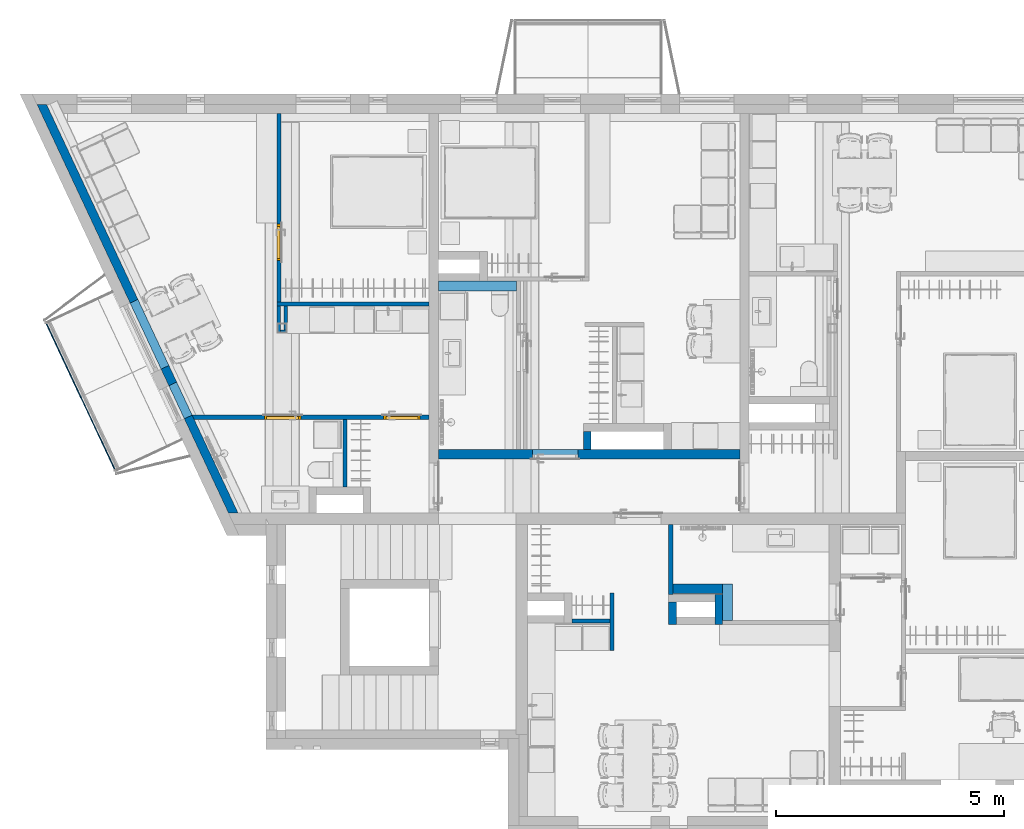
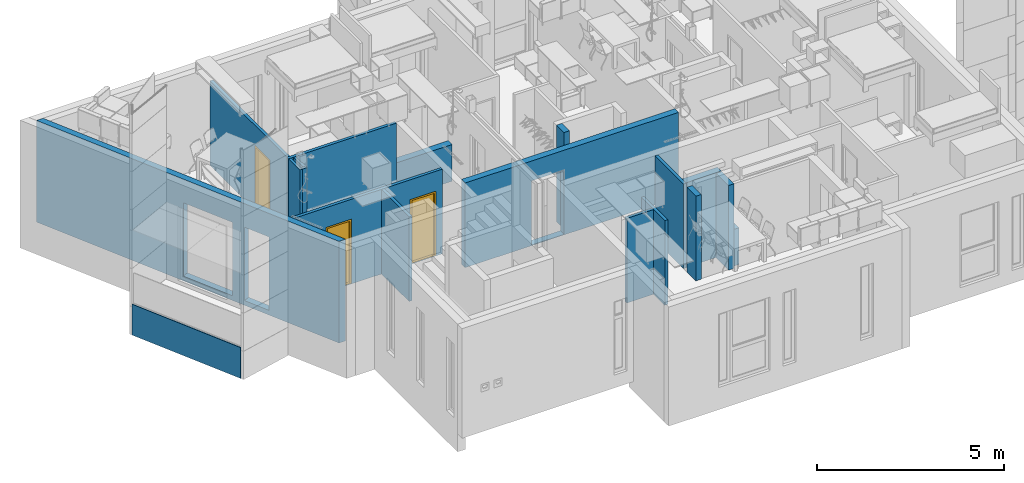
# One storey, part 4 of 125: 19 walls, 3 doors, 6 openings.
"""IFC2X3 building model written with IfcOpenShell, lengths in millimetres."""

from ifc_helpers import new_model, entity, si_unit, converted_unit, direction, frame, frame_2d, origin, place, context, subcontext, project, spatial, polyline, rectangle, outline, extrude, clip, bounded_halfspace, faceted_brep, source, transform, mapped, material, layer, layer_set, layer_usage, type_object, type_shapes, element, fill, save


model = new_model("IFC2X3")

# Units and contexts
model_context = context("Model", 3, precision=0.01, world=origin(), true_north=direction((6.123233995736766e-17, 1.0)))
plan_context = context("Plan", 3, precision=0.01, world=origin(), true_north=direction((6.123233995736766e-17, 1.0)))
body_context = subcontext(model_context, "Body", "Model", "MODEL_VIEW")
ifc_project = project(units=[si_unit("LENGTHUNIT", "METRE", prefix="MILLI"), converted_unit("PLANEANGLEUNIT", "DEGREE", entity("IfcPlaneAngleMeasure", 0.017453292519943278), si_unit("PLANEANGLEUNIT", "RADIAN"), dimensions=[0, 0, 0, 0, 0, 0, 0]), si_unit("AREAUNIT", "SQUARE_METRE")], contexts=[model_context, plan_context])

# Site, building, storey
site_placement = place(None, origin())
site = spatial("IfcSite", under=ifc_project, at=site_placement, Name="Default", CompositionType="ELEMENT")
building_placement = place(site_placement, origin())
building = spatial("IfcBuilding", under=site, at=building_placement, CompositionType="ELEMENT")
storey_placement = place(building_placement, frame((0.0, 0.0, 3125.0)))
storey = spatial("IfcBuildingStorey", under=building, at=storey_placement, Name="2K", CompositionType="ELEMENT", Elevation=3125.0)

# Wall, openings
ifc_material_1 = material(Name="_K. Väisviimistlus. Krohv. Valge")
ifc_layer_1 = layer(ifc_material_1, 5.0)
ifc_material_2 = material(Name="_K. Müüritis. Väikeplokk. Betoon-õõnesplokk")
ifc_layer_2 = layer(ifc_material_2, 190.00000000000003)
ifc_layer_3 = layer(ifc_material_1, 5.0)
ifc_layer_set_1 = layer_set([ifc_layer_1, ifc_layer_2, ifc_layer_3], Name="Basic Wall:SS-01. 190")
ifc_layer_usage_1 = layer_usage(ifc_layer_set_1, "AXIS2", "NEGATIVE", 100.00000000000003)
wall_type_1 = type_object("IfcWallType", Name="Basic Wall:SS-01. 190", PredefinedType="STANDARD", material=ifc_layer_set_1)
wall_1_placement = place(storey_placement, frame((-1131.0533723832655, 6607.55657189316, -154.99946610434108), z_axis=(0.0, 0.0, 1.0), x_axis=(-0.42443387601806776, 0.905458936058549, 0.0)))
wall_1 = element("IfcWallStandardCase", 1, at=wall_1_placement, inside=storey, type_object=wall_type_1, material=ifc_layer_usage_1, Name="Basic Wall:SS-01. 190", ObjectType="Basic Wall:SS-01. 190", context=body_context, shape_type="SweptSolid", body=[
    extrude(outline(polyline([(1309.9245855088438, -3018.333346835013), (1519.7629254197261, -3018.333346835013), (1515.0754254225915, -3008.3333468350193), (-2675.549591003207, 5931.666693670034), (-2885.3879309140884, 5931.666693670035), (1216.1745855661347, -2818.333346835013), (1309.9245855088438, -3018.333346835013)])), frame((6595.53699683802, -5.0, 0.0), z_axis=(0.0, 0.0, 1.0), x_axis=(0.42443387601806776, 0.905458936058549, 0.0)), (0.0, 0.0, 1.0), 3324.9994661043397),
])
opening_1_placement = place(storey_placement, frame((-1131.0533723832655, 6607.55657189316, -154.99946610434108), z_axis=(0.0, 0.0, 1.0), x_axis=(-0.42443387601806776, 0.905458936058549, 0.0)))
element("IfcOpeningElement", 2, at=opening_1_placement, cuts=wall_1, Name="Basic Wall:SS-01. 190:1", ObjectType="Opening", context=body_context, shape_type="SweptSolid", body=[
    extrude(rectangle(XDim=2400.000000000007, YDim=800.0000000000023, at=frame_2d((-3.296918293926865e-12, -1.1652900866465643e-12), x_axis=(1.0, 0.0))), frame((2771.5086436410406, 90.0, 1354.9994661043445), z_axis=(0.0, -1.0, 0.0), x_axis=(0.0, 0.0, 1.0)), (0.0, 0.0, 1.0), 189.99999999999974),
])
opening_2_placement = place(storey_placement, frame((-1131.0533723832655, 6607.55657189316, -154.99946610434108), z_axis=(0.0, 0.0, 1.0), x_axis=(-0.42443387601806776, 0.905458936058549, 0.0)))
element("IfcOpeningElement", 3, at=opening_2_placement, cuts=wall_1, Name="Basic Wall:SS-01. 190:2", ObjectType="Opening", context=body_context, shape_type="SweptSolid", body=[
    extrude(rectangle(XDim=2400.000000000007, YDim=1599.9999999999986, at=frame_2d((-3.296918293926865e-12, -1.1937117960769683e-12), x_axis=(1.0, 0.0))), frame((4371.508643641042, 90.0, 1354.9994661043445), z_axis=(0.0, -1.0, 0.0), x_axis=(0.0, 0.0, 1.0)), (0.0, 0.0, 1.0), 189.99999999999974),
])

# Wall, opening
ifc_layer_usage_2 = layer_usage(ifc_layer_set_1, "AXIS2", "NEGATIVE", 100.00000000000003)
wall_2_placement = place(storey_placement, frame((3344.993534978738, 7940.0, -20.00019836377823)))
wall_2 = element("IfcWallStandardCase", 4, at=wall_2_placement, inside=storey, type_object=wall_type_1, material=ifc_layer_usage_2, Name="Basic Wall:SS-01. 190", ObjectType="Basic Wall:SS-01. 190", context=body_context, shape_type="SweptSolid", body=[
    extrude(rectangle(XDim=199.99999999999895, YDim=6605.00646502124, at=frame_2d((-60.00000000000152, -421.4980604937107), x_axis=(1.0, 0.0))), frame((2881.00517201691, 60.0, 0.0), z_axis=(0.0, 0.0, 1.0), x_axis=(0.0, 1.0, 0.0)), (0.0, 0.0, 1.0), 2770.000198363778),
])
opening_3_placement = place(storey_placement, frame((3344.993534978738, 7940.0, -20.00019836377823)))
element("IfcOpeningElement", 5, at=opening_3_placement, cuts=wall_2, Name="Basic Wall:SS-01. 190:1", ObjectType="Opening", context=body_context, shape_type="SweptSolid", body=[
    extrude(rectangle(XDim=2100.000000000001, YDim=999.999999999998, at=frame_2d((3.410605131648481e-13, 1.0800249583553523e-12), x_axis=(1.0, 0.0))), frame((2559.0064650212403, -100.0, 1070.000198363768), z_axis=(0.0, 1.0, 0.0), x_axis=(0.0, 0.0, 1.0)), (0.0, 0.0, 1.0), 200.0),
])

# Wall
ifc_material_3 = material(Name="_K. Ehitusplaat. Kipsplaat. Erikõva")
ifc_layer_4 = layer(ifc_material_3, 13.000000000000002)
ifc_material_4 = material(Name="_K. Soojustus. Mineraalvill")
ifc_layer_5 = layer(ifc_material_4, 66.0)
ifc_layer_6 = layer(ifc_material_3, 13.000000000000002)
ifc_layer_set_2 = layer_set([ifc_layer_4, ifc_layer_5, ifc_layer_6], Name="Basic Wall:SS-401")
ifc_layer_usage_3 = layer_usage(ifc_layer_set_2, "AXIS2", "NEGATIVE", 46.00000000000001)
wall_type_2 = type_object("IfcWallType", Name="Basic Wall:SS-401", PredefinedType="STANDARD", material=ifc_layer_set_2)
wall_3_placement = place(storey_placement, frame((-188.01000000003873, 11233.0, -20.0)))
element("IfcWallStandardCase", 6, at=wall_3_placement, inside=storey, type_object=wall_type_2, material=ifc_layer_usage_3, Name="Basic Wall:SS-401", ObjectType="Basic Wall:SS-401", context=body_context, shape_type="SweptSolid", body=[
    extrude(rectangle(XDim=3333.0035349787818, YDim=92.00000000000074, at=frame_2d((1666.5017674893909, 3.304023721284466e-13), x_axis=(-1.0, 0.0))), origin(), (0.0, 0.0, 1.0), 2769.9999999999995),
])

# Wall, openings, doors
ifc_layer_usage_4 = layer_usage(ifc_layer_set_2, "AXIS2", "NEGATIVE", 46.00000000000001)
wall_4_placement = place(storey_placement, frame((-2047.3824971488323, 8752.0, -20.0)))
wall_4 = element("IfcWallStandardCase", 7, at=wall_4_placement, inside=storey, type_object=wall_type_2, material=ifc_layer_usage_4, Name="Basic Wall:SS-401", ObjectType="Basic Wall:SS-401", context=body_context, shape_type="SweptSolid", body=[
    extrude(outline(polyline([(5192.376032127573, -46.0), (5192.376032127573, 46.0), (0.0, 46.0), (43.12499997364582, -46.0), (3300.3760321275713, -46.0), (3392.3760321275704, -46.0), (5192.376032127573, -46.0)])), origin(), (0.0, 0.0, 1.0), 2769.9999999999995),
])
opening_4_placement = place(wall_4_placement, frame((2047.3824971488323, -8752.0, 20.0)))
opening_4 = element("IfcOpeningElement", 8, at=opening_4_placement, cuts=wall_4, Name="Basic Wall:SS-401", ObjectType="Opening", context=body_context, shape_type="Brep", body=[
    faceted_brep([(334.9935349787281, 7706.0, 2100.0), (-465.0064650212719, 7706.0, 2100.0), (-465.0064650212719, 7706.0, 0.0), (334.99353497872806, 7706.0, 0.0), (334.99353497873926, 9798.0, 0.0), (334.99353497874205, 9798.0, 2100.0), (-465.0064650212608, 9798.0, 0.0), (-465.0064650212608, 9798.0, 2100.0)], [[[0, 1, 2, 3]], [[3, 4, 5, 0]], [[2, 6, 4, 3]], [[1, 7, 6, 2]], [[5, 7, 1, 0]], [[7, 5, 4, 6]]]),
])
opening_5_placement = place(wall_4_placement, frame((2047.3824971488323, -8752.0, 20.0)))
opening_5 = element("IfcOpeningElement", 9, at=opening_5_placement, cuts=wall_4, Name="Basic Wall:SS-401", ObjectType="Opening", context=body_context, shape_type="Brep", body=[
    faceted_brep([(2944.9935349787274, 7706.0, 2100.0), (2144.9935349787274, 7706.0, 2100.0), (2144.9935349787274, 7706.0, 0.0), (2944.9935349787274, 7706.0, 0.0), (2944.9935349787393, 9798.0, 0.0), (2944.993534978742, 9798.0, 2100.0), (2144.9935349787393, 9798.0, 0.0), (2144.9935349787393, 9798.0, 2100.0)], [[[0, 1, 2, 3]], [[3, 4, 5, 0]], [[2, 6, 4, 3]], [[1, 7, 6, 2]], [[5, 7, 1, 0]], [[7, 5, 4, 6]]]),
])
ifc_material_5 = material(Name="_K. Puit. Peitsitud ja lakitud")
door_style_1 = type_object("IfcDoorStyle", Name="HR_Generic_Hinged_Single:Default. Manteluks lävepakuga. 800 x 2100 mm. Left", ConstructionType="NOTDEFINED", OperationType="NOTDEFINED", ParameterTakesPrecedence=False, Sizeable=False, material=ifc_material_5)
shared_shape_1 = source(origin(), body_context, "Body", "Brep", [
    faceted_brep([(765.0, -1000.0, 20.0), (35.0, -1000.0, 20.0), (35.0, -1030.0, 20.0), (50.0, -1030.0, 20.0), (50.0, -1092.0, 20.0), (750.0, -1092.0, 20.0), (750.0, -1030.0, 20.0), (765.0, -1030.0, 20.0), (35.0, -1000.0, 0.0), (765.0, -1000.0, 0.0), (765.0, -1030.0, 0.0), (750.0, -1030.0, 0.0), (750.0, -1092.0, 0.0), (50.0, -1092.0, 0.0), (50.0, -1030.0, 0.0), (35.0, -1030.0, 0.0)], [[[0, 1, 2, 3, 4, 5, 6, 7]], [[8, 9, 10, 11, 12, 13, 14, 15]], [[1, 0, 9, 8]], [[5, 4, 13, 12]], [[2, 1, 8, 15]], [[0, 7, 10, 9]], [[3, 14, 13, 4]], [[14, 3, 2, 15]], [[6, 11, 10, 7]], [[11, 6, 5, 12]]]),
    faceted_brep([(37.0, -1030.0, 2060.0), (37.0, -1030.0, 25.0), (763.0, -1030.0, 25.0), (763.0, -1030.0, 2060.0), (27.0, -990.0, 25.0), (27.0, -990.0, 2070.0), (773.0, -990.0, 2070.0), (773.0, -990.0, 25.0), (37.0, -1000.0, 2060.0), (37.0, -1000.0, 25.0), (27.0, -1000.0, 25.0), (773.0, -1000.0, 25.0), (763.0, -1000.0, 25.0), (763.0, -1000.0, 2060.0), (27.0, -1000.0, 2070.0), (773.0, -1000.0, 2070.0)], [[[0, 1, 2, 3]], [[4, 5, 6, 7]], [[1, 0, 8, 9]], [[2, 1, 9, 10, 4, 7, 11, 12]], [[3, 2, 12, 13]], [[0, 3, 13, 8]], [[14, 10, 9, 8, 13, 12, 11, 15]], [[6, 5, 14, 15]], [[7, 6, 15, 11]], [[5, 4, 10, 14]]]),
    faceted_brep([(800.0, -1092.0, 0.0), (750.0, -1092.0, 0.0), (750.0, -1030.0, 0.0), (765.0, -1030.0, 0.0), (765.0, -1000.0, 0.0), (800.0, -1000.0, 0.0), (800.0, -1092.0, 2100.0), (0.0, -1092.0, 2100.0), (0.0, -1092.0, 0.0), (50.0, -1092.0, 0.0), (50.0, -1092.0, 2050.0), (750.0, -1092.0, 2050.0), (750.0, -1030.0, 2050.0), (35.0, -1030.0, 2065.0), (765.0, -1030.0, 2065.0), (50.0, -1030.0, 2050.0), (50.0, -1030.0, 0.0), (35.0, -1030.0, 0.0), (765.0, -1000.0, 2065.0), (0.0, -1000.0, 0.0), (0.0, -1000.0, 2100.0), (800.0, -1000.0, 2100.0), (35.0, -1000.0, 2065.0), (35.0, -1000.0, 0.0)], [[[0, 1, 2, 3, 4, 5]], [[1, 0, 6, 7, 8, 9, 10, 11]], [[1, 11, 12, 2]], [[13, 14, 3, 2, 12, 15, 16, 17]], [[3, 14, 18, 4]], [[19, 20, 21, 5, 4, 18, 22, 23]], [[0, 5, 21, 6]], [[8, 19, 23, 17, 16, 9]], [[19, 8, 7, 20]], [[13, 17, 23, 22]], [[10, 9, 16, 15]], [[7, 6, 21, 20]], [[11, 10, 15, 12]], [[14, 13, 22, 18]]]),
])
type_shapes(door_style_1, [shared_shape_1])
door_1_placement = place(opening_5_placement, frame((2144.993534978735, 9798.0, 0.0)))
door_1 = element("IfcDoor", 10, at=door_1_placement, inside=storey, type_object=door_style_1, material=ifc_material_5, Name="HR_Generic_Hinged_Single:Default. Manteluks lävepakuga. 800 x 2100 mm. Left", ObjectType="HR_Generic_Hinged_Single:Default. Manteluks lävepakuga. 800 x 2100 mm. Left", OverallHeight=2130.000000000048, OverallWidth=860.0000000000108, context=body_context, shape_type="MappedRepresentation", body=[
    mapped(shared_shape_1, transform((0.0, 0.0, 0.0), scale=1.0)),
])
fill(opening_5, door_1)
door_style_2 = type_object("IfcDoorStyle", Name="HR_Generic_Hinged_Single:Default. Manteluks lävepakuga. 800 x 2100 mm. Right", ConstructionType="NOTDEFINED", OperationType="NOTDEFINED", ParameterTakesPrecedence=False, Sizeable=False, material=ifc_material_5)
shared_shape_2 = source(origin(), body_context, "Body", "Brep", [
    faceted_brep([(765.0, -1000.0, 20.0), (35.0, -1000.0, 20.0), (35.0, -1030.0, 20.0), (50.0, -1030.0, 20.0), (50.0, -1092.0, 20.0), (750.0, -1092.0, 20.0), (750.0, -1030.0, 20.0), (765.0, -1030.0, 20.0), (35.0, -1000.0, 0.0), (765.0, -1000.0, 0.0), (765.0, -1030.0, 0.0), (750.0, -1030.0, 0.0), (750.0, -1092.0, 0.0), (50.0, -1092.0, 0.0), (50.0, -1030.0, 0.0), (35.0, -1030.0, 0.0)], [[[0, 1, 2, 3, 4, 5, 6, 7]], [[8, 9, 10, 11, 12, 13, 14, 15]], [[1, 0, 9, 8]], [[5, 4, 13, 12]], [[2, 1, 8, 15]], [[0, 7, 10, 9]], [[3, 14, 13, 4]], [[14, 3, 2, 15]], [[6, 11, 10, 7]], [[11, 6, 5, 12]]]),
    faceted_brep([(37.0, -1030.0, 2060.0), (37.0, -1030.0, 25.0), (763.0, -1030.0, 25.0), (763.0, -1030.0, 2060.0), (27.0, -990.0, 25.0), (27.0, -990.0, 2070.0), (773.0, -990.0, 2070.0), (773.0, -990.0, 25.0), (37.0, -1000.0, 2060.0), (37.0, -1000.0, 25.0), (27.0, -1000.0, 25.0), (773.0, -1000.0, 25.0), (763.0, -1000.0, 25.0), (763.0, -1000.0, 2060.0), (27.0, -1000.0, 2070.0), (773.0, -1000.0, 2070.0)], [[[0, 1, 2, 3]], [[4, 5, 6, 7]], [[1, 0, 8, 9]], [[2, 1, 9, 10, 4, 7, 11, 12]], [[3, 2, 12, 13]], [[0, 3, 13, 8]], [[14, 10, 9, 8, 13, 12, 11, 15]], [[6, 5, 14, 15]], [[7, 6, 15, 11]], [[5, 4, 10, 14]]]),
    faceted_brep([(800.0, -1092.0, 0.0), (750.0, -1092.0, 0.0), (750.0, -1030.0, 0.0), (765.0, -1030.0, 0.0), (765.0, -1000.0, 0.0), (800.0, -1000.0, 0.0), (800.0, -1092.0, 2100.0), (0.0, -1092.0, 2100.0), (0.0, -1092.0, 0.0), (50.0, -1092.0, 0.0), (50.0, -1092.0, 2050.0), (750.0, -1092.0, 2050.0), (750.0, -1030.0, 2050.0), (35.0, -1030.0, 2065.0), (765.0, -1030.0, 2065.0), (50.0, -1030.0, 2050.0), (50.0, -1030.0, 0.0), (35.0, -1030.0, 0.0), (765.0, -1000.0, 2065.0), (0.0, -1000.0, 0.0), (0.0, -1000.0, 2100.0), (800.0, -1000.0, 2100.0), (35.0, -1000.0, 2065.0), (35.0, -1000.0, 0.0)], [[[0, 1, 2, 3, 4, 5]], [[1, 0, 6, 7, 8, 9, 10, 11]], [[1, 11, 12, 2]], [[13, 14, 3, 2, 12, 15, 16, 17]], [[3, 14, 18, 4]], [[19, 20, 21, 5, 4, 18, 22, 23]], [[0, 5, 21, 6]], [[8, 19, 23, 17, 16, 9]], [[19, 8, 7, 20]], [[13, 17, 23, 22]], [[10, 9, 16, 15]], [[7, 6, 21, 20]], [[11, 10, 15, 12]], [[14, 13, 22, 18]]]),
])
type_shapes(door_style_2, [shared_shape_2])
door_2_placement = place(opening_4_placement, frame((-465.0064650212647, 9798.0, 0.0)))
door_2 = element("IfcDoor", 11, at=door_2_placement, inside=storey, type_object=door_style_2, material=ifc_material_5, Name="HR_Generic_Hinged_Single:Default. Manteluks lävepakuga. 800 x 2100 mm. Right", ObjectType="HR_Generic_Hinged_Single:Default. Manteluks lävepakuga. 800 x 2100 mm. Right", OverallHeight=2130.000000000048, OverallWidth=860.0000000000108, context=body_context, shape_type="MappedRepresentation", body=[
    mapped(shared_shape_2, transform((0.0, 0.0, 0.0), scale=1.0)),
])
fill(opening_4, door_2)

# Walls
ifc_layer_usage_5 = layer_usage(ifc_layer_set_2, "AXIS2", "NEGATIVE", 46.00000000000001)
wall_5_placement = place(storey_placement, frame((1298.9935349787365, 7220.0, -20.0), z_axis=(0.0, 0.0, 1.0), x_axis=(0.0, 1.0, 0.0)))
element("IfcWallStandardCase", 12, at=wall_5_placement, inside=storey, type_object=wall_type_2, material=ifc_layer_usage_5, Name="Basic Wall:SS-401", ObjectType="Basic Wall:SS-401", context=body_context, shape_type="SweptSolid", body=[
    extrude(rectangle(XDim=1485.9999999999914, YDim=92.0000000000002, at=frame_2d((742.9999999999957, 2.1316282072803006e-14), x_axis=(-1.0, 0.0))), origin(), (0.0, 0.0, 1.0), 2769.9999999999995),
])
ifc_layer_usage_6 = layer_usage(ifc_layer_set_2, "AXIS2", "NEGATIVE", 46.00000000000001)
wall_6_placement = place(storey_placement, frame((8436.0, 4870.0, -20.0), z_axis=(0.0, 0.0, 1.0), x_axis=(0.0, 1.0, 0.0)))
element("IfcWallStandardCase", 13, at=wall_6_placement, inside=storey, type_object=wall_type_2, material=ifc_layer_usage_6, Name="Basic Wall:SS-401", ObjectType="Basic Wall:SS-401", context=body_context, shape_type="SweptSolid", body=[
    extrude(rectangle(XDim=1529.9999594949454, YDim=92.00000000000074, at=frame_2d((764.9999797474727, 1.9539925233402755e-13), x_axis=(-1.0, 0.0))), origin(), (0.0, 0.0, 1.0), 2769.9999999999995),
])
ifc_layer_usage_7 = layer_usage(ifc_layer_set_2, "AXIS2", "NEGATIVE", 46.00000000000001)
wall_7_placement = place(storey_placement, frame((7146.0, 3640.0, -20.0), z_axis=(0.0, 0.0, 1.0), x_axis=(0.0, 1.0, 0.0)))
element("IfcWallStandardCase", 14, at=wall_7_placement, inside=storey, type_object=wall_type_2, material=ifc_layer_usage_7, Name="Basic Wall:SS-401", ObjectType="Basic Wall:SS-401", context=body_context, shape_type="SweptSolid", body=[
    extrude(rectangle(XDim=1260.0000000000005, YDim=92.00000000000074, at=frame_2d((630.0000000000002, -2.842170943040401e-14), x_axis=(-1.0, 0.0))), origin(), (0.0, 0.0, 1.0), 2769.9999999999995),
])
ifc_layer_usage_8 = layer_usage(ifc_layer_set_2, "AXIS2", "NEGATIVE", 46.00000000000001)
wall_8_placement = place(storey_placement, frame((7100.0, 4286.0, -20.0), z_axis=(0.0, 0.0, 1.0), x_axis=(-1.0, 0.0, 0.0)))
element("IfcWallStandardCase", 15, at=wall_8_placement, inside=storey, type_object=wall_type_2, material=ifc_layer_usage_8, Name="Basic Wall:SS-401", ObjectType="Basic Wall:SS-401", context=body_context, shape_type="SweptSolid", body=[
    extrude(rectangle(XDim=830.0028029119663, YDim=91.99999999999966, at=frame_2d((415.00140145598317, -1.7053025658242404e-13), x_axis=(-1.0, 0.0))), origin(), (0.0, 0.0, 1.0), 2769.9999999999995),
])

# Wall, opening, door
ifc_layer_usage_9 = layer_usage(ifc_layer_set_2, "AXIS2", "NEGATIVE", 46.00000000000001)
wall_9_placement = place(storey_placement, frame((-142.01000000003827, 11279.0, -20.0), z_axis=(0.0, 0.0, 1.0), x_axis=(0.0, 1.0, 0.0)))
wall_9 = element("IfcWallStandardCase", 16, at=wall_9_placement, inside=storey, type_object=wall_type_2, material=ifc_layer_usage_9, Name="Basic Wall:SS-401", ObjectType="Basic Wall:SS-401", context=body_context, shape_type="SweptSolid", body=[
    extrude(rectangle(XDim=4121.000000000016, YDim=92.0, at=frame_2d((2060.500000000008, 7.105427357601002e-15), x_axis=(-1.0, 0.0))), origin(), (0.0, 0.0, 1.0), 2769.9999999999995),
])
opening_6_placement = place(wall_9_placement, frame((-11279.0, -142.01000000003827, 20.0), z_axis=(0.0, 0.0, 1.0), x_axis=(0.0, -1.0, 0.0)))
opening_6 = element("IfcOpeningElement", 17, at=opening_6_placement, cuts=wall_9, Name="Basic Wall:SS-401", ObjectType="Opening", context=body_context, shape_type="Brep", body=[
    faceted_brep([(-1188.0100000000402, 12179.0, 2100.0), (-1188.0100000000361, 12979.0, 2100.0), (-1188.0100000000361, 12979.0, 0.0), (-1188.0100000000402, 12179.0, 0.0), (903.9899999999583, 12179.0, 0.0), (903.9899999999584, 12179.0, 2100.0), (903.9899999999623, 12979.0, 0.0), (903.9899999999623, 12979.0, 2100.0)], [[[0, 1, 2, 3]], [[3, 4, 5, 0]], [[2, 6, 4, 3]], [[1, 7, 6, 2]], [[5, 7, 1, 0]], [[7, 5, 4, 6]]]),
])
door_style_3 = type_object("IfcDoorStyle", Name="HR_Generic_Hinged_Single:Default. Manteluks lävepakuga. 800 x 2100 mm. Left", ConstructionType="NOTDEFINED", OperationType="NOTDEFINED", ParameterTakesPrecedence=False, Sizeable=False, material=ifc_material_5)
shared_shape_3 = source(origin(), body_context, "Body", "Brep", [
    faceted_brep([(765.0, 1092.0, 20.0), (35.0, 1092.0, 20.0), (35.0, 1062.0, 20.0), (50.0, 1062.0, 20.0), (50.0, 1000.0, 20.0), (750.0, 1000.0, 20.0), (750.0, 1062.0, 20.0), (765.0, 1062.0, 20.0), (35.0, 1092.0, 0.0), (765.0, 1092.0, 0.0), (765.0, 1062.0, 0.0), (750.0, 1062.0, 0.0), (750.0, 1000.0, 0.0), (50.0, 1000.0, 0.0), (50.0, 1062.0, 0.0), (35.0, 1062.0, 0.0)], [[[0, 1, 2, 3, 4, 5, 6, 7]], [[8, 9, 10, 11, 12, 13, 14, 15]], [[1, 0, 9, 8]], [[5, 4, 13, 12]], [[2, 1, 8, 15]], [[0, 7, 10, 9]], [[3, 14, 13, 4]], [[14, 3, 2, 15]], [[6, 11, 10, 7]], [[11, 6, 5, 12]]]),
    faceted_brep([(37.0, 1062.0, 2060.0), (37.0, 1062.0, 25.0), (763.0, 1062.0, 25.0), (763.0, 1062.0, 2060.0), (27.0, 1102.0, 25.0), (27.0, 1102.0, 2070.0), (773.0, 1102.0, 2070.0), (773.0, 1102.0, 25.0), (37.0, 1092.0, 2060.0), (37.0, 1092.0, 25.0), (27.0, 1092.0, 25.0), (773.0, 1092.0, 25.0), (763.0, 1092.0, 25.0), (763.0, 1092.0, 2060.0), (27.0, 1092.0, 2070.0), (773.0, 1092.0, 2070.0)], [[[0, 1, 2, 3]], [[4, 5, 6, 7]], [[1, 0, 8, 9]], [[2, 1, 9, 10, 4, 7, 11, 12]], [[3, 2, 12, 13]], [[0, 3, 13, 8]], [[14, 10, 9, 8, 13, 12, 11, 15]], [[6, 5, 14, 15]], [[7, 6, 15, 11]], [[5, 4, 10, 14]]]),
    faceted_brep([(800.0, 1000.0, 0.0), (750.0, 1000.0, 0.0), (750.0, 1062.0, 0.0), (765.0, 1062.0, 0.0), (765.0, 1092.0, 0.0), (800.0, 1092.0, 0.0), (800.0, 1000.0, 2100.0), (0.0, 1000.0, 2100.0), (0.0, 1000.0, 0.0), (50.0, 1000.0, 0.0), (50.0, 1000.0, 2050.0), (750.0, 1000.0, 2050.0), (750.0, 1062.0, 2050.0), (35.0, 1062.0, 2065.0), (765.0, 1062.0, 2065.0), (50.0, 1062.0, 2050.0), (50.0, 1062.0, 0.0), (35.0, 1062.0, 0.0), (765.0, 1092.0, 2065.0), (0.0, 1092.0, 0.0), (0.0, 1092.0, 2100.0), (800.0, 1092.0, 2100.0), (35.0, 1092.0, 2065.0), (35.0, 1092.0, 0.0)], [[[0, 1, 2, 3, 4, 5]], [[1, 0, 6, 7, 8, 9, 10, 11]], [[1, 11, 12, 2]], [[13, 14, 3, 2, 12, 15, 16, 17]], [[3, 14, 18, 4]], [[19, 20, 21, 5, 4, 18, 22, 23]], [[0, 5, 21, 6]], [[8, 19, 23, 17, 16, 9]], [[19, 8, 7, 20]], [[13, 17, 23, 22]], [[10, 9, 16, 15]], [[7, 6, 21, 20]], [[11, 10, 15, 12]], [[14, 13, 22, 18]]]),
])
type_shapes(door_style_3, [shared_shape_3])
door_3_placement = place(opening_6_placement, frame((-1188.0100000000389, 12979.0, 0.0), z_axis=(0.0, 0.0, 1.0), x_axis=(0.0, -1.0, 0.0)))
door_3 = element("IfcDoor", 18, at=door_3_placement, inside=storey, type_object=door_style_3, material=ifc_material_5, Name="HR_Generic_Hinged_Single:Default. Manteluks lävepakuga. 800 x 2100 mm. Left", ObjectType="HR_Generic_Hinged_Single:Default. Manteluks lävepakuga. 800 x 2100 mm. Left", OverallHeight=2130.000000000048, OverallWidth=860.0000000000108, context=body_context, shape_type="MappedRepresentation", body=[
    mapped(shared_shape_3, transform((0.0, 0.0, 0.0), scale=1.0)),
])
fill(opening_6, door_3)

# Walls
ifc_layer_7 = layer(ifc_material_3, 13.000000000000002)
ifc_layer_8 = layer(ifc_material_4, 66.0)
ifc_layer_set_3 = layer_set([ifc_layer_7, ifc_layer_8], Name="Basic Wall:SS-402")
ifc_layer_usage_10 = layer_usage(ifc_layer_set_3, "AXIS2", "NEGATIVE", 39.50000000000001)
wall_type_3 = type_object("IfcWallType", Name="Basic Wall:SS-402", PredefinedType="STANDARD", material=ifc_layer_set_3)
wall_10_placement = place(storey_placement, frame((-148.51000000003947, 10587.0, -20.0), z_axis=(0.0, 0.0, 1.0), x_axis=(0.0, 1.0, 0.0)))
element("IfcWallStandardCase", 19, at=wall_10_placement, inside=storey, type_object=wall_type_3, material=ifc_layer_usage_10, Name="Basic Wall:SS-402", ObjectType="Basic Wall:SS-402", context=body_context, shape_type="SweptSolid", body=[
    extrude(rectangle(XDim=600.0000000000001, YDim=79.00000000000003, at=frame_2d((300.00000000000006, 7.105427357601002e-15), x_axis=(-1.0, 0.0))), origin(), (0.0, 0.0, 1.0), 2769.9999999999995),
])
ifc_layer_usage_11 = layer_usage(ifc_layer_set_3, "AXIS2", "POSITIVE", -39.50000000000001)
wall_11_placement = place(storey_placement, frame((-1.5100000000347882, 10666.0, -20.0), z_axis=(0.0, 0.0, 1.0), x_axis=(0.0, 1.0, 0.0)))
element("IfcWallStandardCase", 20, at=wall_11_placement, inside=storey, type_object=wall_type_3, material=ifc_layer_usage_11, Name="Basic Wall:SS-402", ObjectType="Basic Wall:SS-402", context=body_context, shape_type="SweptSolid", body=[
    extrude(rectangle(XDim=521.0000000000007, YDim=79.00000000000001, at=frame_2d((260.50000000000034, 0.0), x_axis=(-1.0, 0.0))), origin(), (0.0, 0.0, 1.0), 2769.9999999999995),
])
ifc_layer_usage_12 = layer_usage(ifc_layer_set_3, "AXIS2", "POSITIVE", -39.50000000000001)
wall_12_placement = place(storey_placement, frame((-109.01000000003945, 10626.499999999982, -20.0)))
element("IfcWallStandardCase", 21, at=wall_12_placement, inside=storey, type_object=wall_type_3, material=ifc_layer_usage_12, Name="Basic Wall:SS-402", ObjectType="Basic Wall:SS-402", context=body_context, shape_type="SweptSolid", body=[
    extrude(rectangle(XDim=147.00000000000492, YDim=78.99999999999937, at=frame_2d((73.50000000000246, 2.0605739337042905e-13), x_axis=(-1.0, 0.0))), origin(), (0.0, 0.0, 1.0), 2769.9999999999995),
])
ifc_layer_9 = layer(ifc_material_1, 10.0)
ifc_material_6 = material(Name="_K. Müüritis. Väikeplokk. Kergkruusplokk")
ifc_layer_10 = layer(ifc_material_6, 150.0)
ifc_layer_11 = layer(ifc_material_1, 10.0)
ifc_layer_set_4 = layer_set([ifc_layer_9, ifc_layer_10, ifc_layer_11], Name="Basic Wall:SS-03. Šahti sein")
ifc_layer_usage_13 = layer_usage(ifc_layer_set_4, "AXIS2", "POSITIVE", -85.00000000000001)
wall_type_4 = type_object("IfcWallType", Name="Basic Wall:SS-03. Šahti sein", PredefinedType="STANDARD", material=ifc_layer_set_4)
wall_13_placement = place(storey_placement, frame((6605.0, 8440.0, 0.0), z_axis=(0.0, 0.0, 1.0), x_axis=(0.0, -1.0, 0.0)))
element("IfcWallStandardCase", 22, at=wall_13_placement, inside=storey, type_object=wall_type_4, material=ifc_layer_usage_13, Name="Basic Wall:SS-03. Šahti sein", ObjectType="Basic Wall:SS-03. Šahti sein", context=body_context, shape_type="SweptSolid", body=[
    extrude(rectangle(XDim=400.00000000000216, YDim=170.00000000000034, at=frame_2d((200.00000000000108, -1.3500311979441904e-13), x_axis=(-1.0, 0.0))), origin(), (0.0, 0.0, 1.0), 3169.9999999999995),
])
ifc_layer_usage_14 = layer_usage(ifc_layer_set_4, "AXIS2", "NEGATIVE", 85.00000000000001)
wall_14_placement = place(storey_placement, frame((9485.0, 4870.0, -20.00019836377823), z_axis=(0.0, 0.0, 1.0), x_axis=(0.0, -1.0, 0.0)))
element("IfcWallStandardCase", 23, at=wall_14_placement, inside=storey, type_object=wall_type_4, material=ifc_layer_usage_14, Name="Basic Wall:SS-03. Šahti sein", ObjectType="Basic Wall:SS-03. Šahti sein", context=body_context, shape_type="Clipping", body=[
    clip(extrude(rectangle(XDim=660.0000000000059, YDim=170.00000000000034, at=frame_2d((330.00000000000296, 4.476419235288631e-13), x_axis=(-1.0, 0.0))), origin(), (0.0, 0.0, 1.0), 2770.000198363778), bounded_halfspace(frame((660.0, -85.0, 0.0), z_axis=(0.0, 0.0, 1.0), x_axis=(-1.0, 0.0, 0.0)), True, frame((660.0, -85.0, 0.0), z_axis=(0.0, 0.0, 1.0), x_axis=(-1.0, 0.0, 0.0)), polyline([(0.0, 0.0), (0.0, -170.0), (92.0, -170.0), (660.0, -170.0), (660.0, 0.0), (490.0, 0.0), (170.0, 0.0), (0.0, 0.0)]))),
])
ifc_layer_usage_15 = layer_usage(ifc_layer_set_4, "AXIS2", "POSITIVE", -85.00000000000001)
wall_15_placement = place(storey_placement, frame((8475.0, 4700.0, -20.00019836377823), z_axis=(0.0, 0.0, 1.0), x_axis=(0.0, -1.0, 0.0)))
element("IfcWallStandardCase", 24, at=wall_15_placement, inside=storey, type_object=wall_type_4, material=ifc_layer_usage_15, Name="Basic Wall:SS-03. Šahti sein", ObjectType="Basic Wall:SS-03. Šahti sein", context=body_context, shape_type="Clipping", body=[
    clip(extrude(rectangle(XDim=490.00000000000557, YDim=170.00000000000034, at=frame_2d((245.00000000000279, -4.689582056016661e-13), x_axis=(-1.0, 0.0))), origin(), (0.0, 0.0, 1.0), 2770.000198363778), bounded_halfspace(frame((490.0, -85.0, 0.0), z_axis=(0.0, 0.0, 1.0), x_axis=(-1.0, 0.0, 0.0)), True, frame((490.0, -85.0, 0.0), z_axis=(0.0, 0.0, 1.0), x_axis=(-1.0, 0.0, 0.0)), polyline([(0.0, 0.0), (0.0, -170.0), (170.0, -170.0), (490.0, -170.0), (490.0, 0.0), (0.0, 0.0)]))),
])
ifc_material_7 = material(Name="_K. Välisviimistlus. Alumiinium-komposiitplaat")
ifc_layer_12 = layer(ifc_material_7, 4.0)
ifc_material_8 = material(Name="_K. Õhk. Roov. Fassaadikatte alusroov. Horisontaalne. 25 mm")
ifc_layer_13 = layer(ifc_material_8, 16.0)
ifc_layer_set_5 = layer_set([ifc_layer_12, ifc_layer_13], Name="Basic Wall:VS-komposiit")
ifc_layer_usage_16 = layer_usage(ifc_layer_set_5, "AXIS2", "NEGATIVE", 10.000000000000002)
wall_type_5 = type_object("IfcWallType", Name="Basic Wall:VS-komposiit", PredefinedType="STANDARD")
wall_16_placement = place(storey_placement, frame((-3737.7133640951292, 7592.904474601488, -1010.0), z_axis=(0.0, 0.0, 1.0), x_axis=(-0.42443169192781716, 0.9054599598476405, 0.0)))
element("IfcWallStandardCase", 25, at=wall_16_placement, inside=storey, type_object=wall_type_5, material=ifc_layer_usage_16, Name="Basic Wall:VS-komposiit", ObjectType="Basic Wall:VS-komposiit", context=body_context, shape_type="SweptSolid", body=[
    extrude(rectangle(XDim=3545.900100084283, YDim=20.000000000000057, at=frame_2d((1772.9500500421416, -5.3290705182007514e-14), x_axis=(-1.0, 0.0))), origin(), (0.0, 0.0, 1.0), 1010.0),
])
ifc_layer_14 = layer(ifc_material_3, 13.000000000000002)
ifc_material_9 = material(Name="_K. Õhk. Roov. Fassaadikatte alusroov. Vertikaalne. 25 mm")
ifc_layer_15 = layer(ifc_material_9, 200.0)
ifc_layer_set_6 = layer_set([ifc_layer_14, ifc_layer_15], Name="Basic Wall:SS-403")
ifc_layer_usage_17 = layer_usage(ifc_layer_set_6, "AXIS2", "POSITIVE", -106.5)
wall_type_6 = type_object("IfcWallType", Name="Basic Wall:SS-403", PredefinedType="STANDARD", material=ifc_layer_set_6)
wall_17_placement = place(storey_placement, frame((3344.993534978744, 11623.500000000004, -20.0)))
element("IfcWallStandardCase", 26, at=wall_17_placement, inside=storey, type_object=wall_type_6, material=ifc_layer_usage_17, Name="Basic Wall:SS-403", ObjectType="Basic Wall:SS-403", context=body_context, shape_type="SweptSolid", body=[
    extrude(rectangle(XDim=1717.0064650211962, YDim=212.9999999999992, at=frame_2d((858.5032325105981, -2.4868995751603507e-13), x_axis=(-1.0, 0.0))), origin(), (0.0, 0.0, 1.0), 1200.0),
])
ifc_layer_usage_18 = layer_usage(ifc_layer_set_6, "AXIS2", "POSITIVE", -106.5)
wall_18_placement = place(storey_placement, frame((9676.499999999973, 4302.0, -20.0), z_axis=(0.0, 0.0, 1.0), x_axis=(0.0, 1.0, 0.0)))
element("IfcWallStandardCase", 27, at=wall_18_placement, inside=storey, type_object=wall_type_6, material=ifc_layer_usage_18, Name="Basic Wall:SS-403", ObjectType="Basic Wall:SS-403", context=body_context, shape_type="SweptSolid", body=[
    extrude(rectangle(XDim=800.0000000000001, YDim=212.99999999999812, at=frame_2d((400.00000000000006, 6.039613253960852e-13), x_axis=(-1.0, 0.0))), origin(), (0.0, 0.0, 1.0), 1200.0),
])
ifc_layer_usage_19 = layer_usage(ifc_layer_set_6, "AXIS2", "POSITIVE", -106.5)
wall_19_placement = place(storey_placement, frame((9570.0, 4995.499999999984, -20.0), z_axis=(0.0, 0.0, 1.0), x_axis=(-1.0, 0.0, 0.0)))
element("IfcWallStandardCase", 28, at=wall_19_placement, inside=storey, type_object=wall_type_6, material=ifc_layer_usage_19, Name="Basic Wall:SS-403", ObjectType="Basic Wall:SS-403", context=body_context, shape_type="SweptSolid", body=[
    extrude(rectangle(XDim=1087.9999999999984, YDim=212.99999999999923, at=frame_2d((543.9999999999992, 1.2789769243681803e-13), x_axis=(-1.0, 0.0))), origin(), (0.0, 0.0, 1.0), 2769.9999999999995),
])

save(model, "model.ifc")
